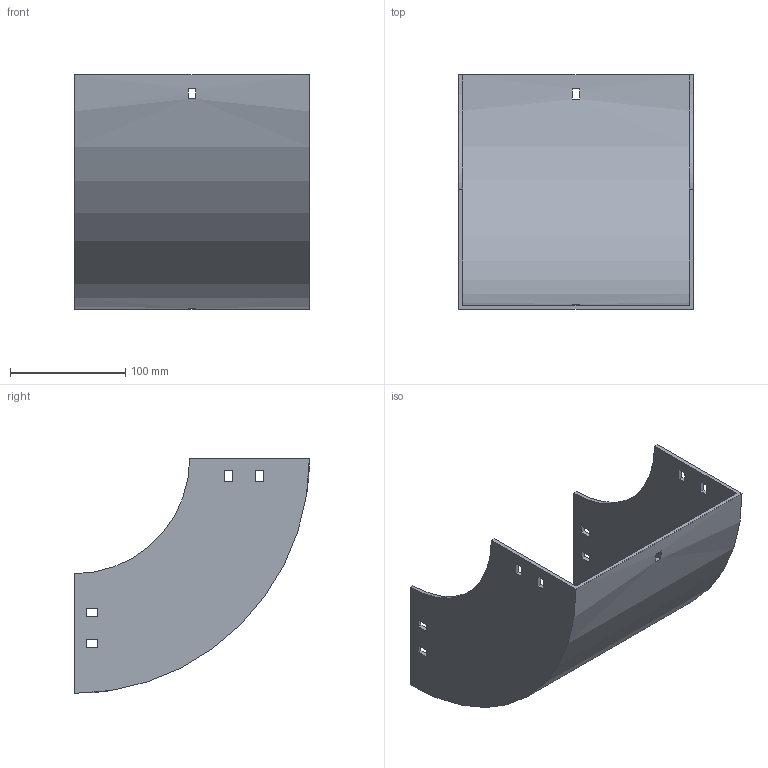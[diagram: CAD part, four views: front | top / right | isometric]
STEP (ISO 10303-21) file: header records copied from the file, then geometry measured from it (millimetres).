
FILE_DESCRIPTION (( 'STEP AP214' ), '1' );
FILE_NAME ('30B1D200.step', '2025-02-21T09:48:36', ( '' ), ( '' ), 'SwSTEP 2.0', 'SolidWorks 2023', '' );
FILE_SCHEMA (( 'AUTOMOTIVE_DESIGN' ));
Length unit declared in the file: millimetre
Products named in the file (1): 30B1D200
Bounding box: 204 x 204 x 204 mm (x, y, z)
Volume: 390496.8 mm3; surface area: 228264.6 mm2
Topology: 1 solids, 1 shells, 50 faces, 144 edges, 96 vertices
Faces by surface type: plane 46, cylinder 4
Entity records: 1687 total; most frequent: CARTESIAN_POINT 291, ORIENTED_EDGE 288, DIRECTION 262, EDGE_CURVE 144, VECTOR 128, LINE 128, VERTEX_POINT 96, EDGE_LOOP 70
